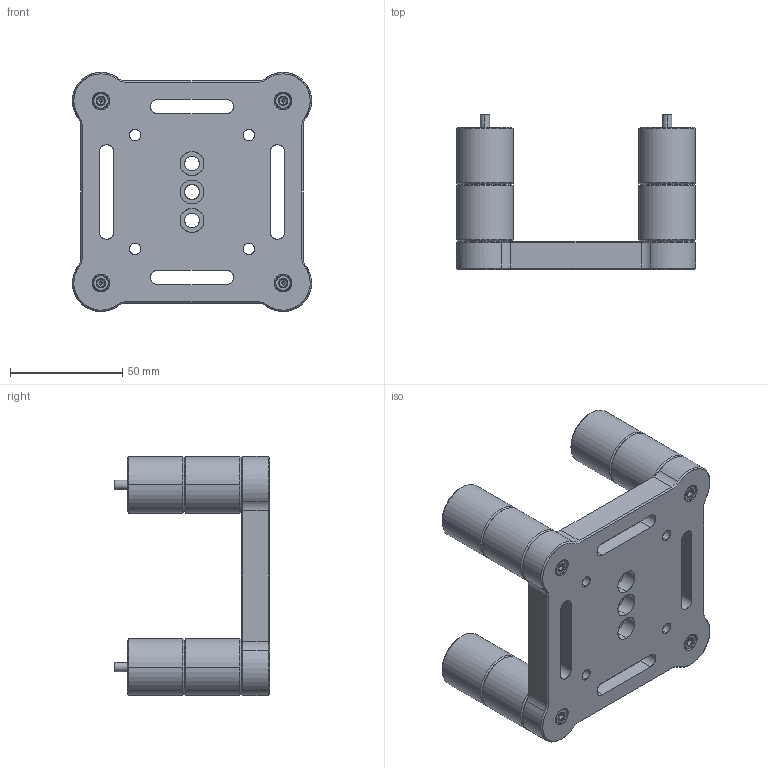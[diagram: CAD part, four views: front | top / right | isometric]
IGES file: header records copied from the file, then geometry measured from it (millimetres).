
Start section: SolidWorks IGES file using analytic representation for surfaces
Global section: file name: C:\Dropbox\Mechanical Engr\Development Projects (P)\284 TECMount\Customer Model Development\Step 4 - 284-MKIT, post.IGS; native system: SolidWorks 2015; preprocessor: SolidWorks 2015; author: mhanson; date: 160205.152618; units: inch
Bounding box: 106.68 x 69.34 x 106.68 mm (x, y, z)
Surface area: 47416 mm2 (no closed solid volume)
Topology: 0 solids, 0 shells, 2005 faces, 23655 edges, 23639 vertices
Faces by surface type: bspline 1759, revolution 246
